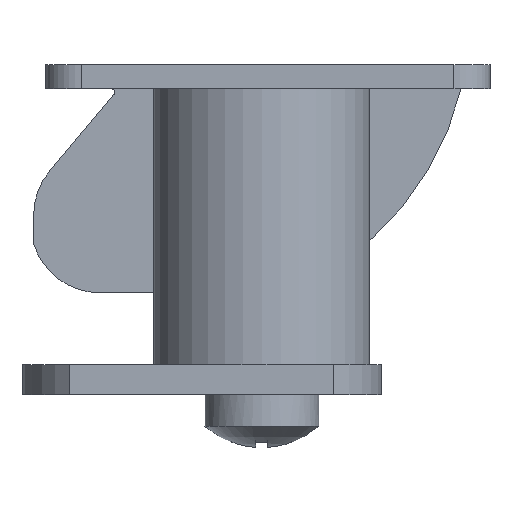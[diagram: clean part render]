
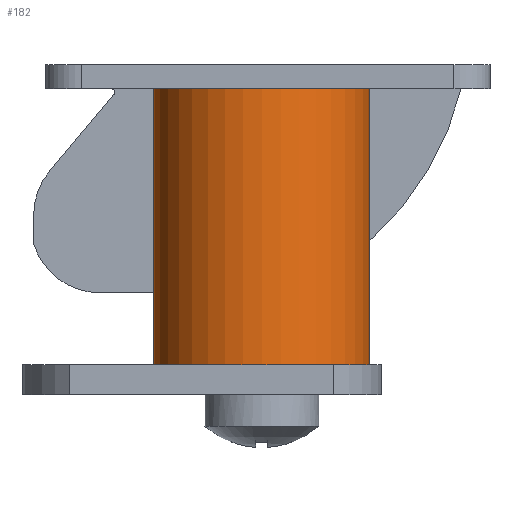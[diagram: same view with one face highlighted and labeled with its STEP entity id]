
A CAD part, left-side view. The second image highlights one B-rep face of the part: STEP entity #182.
In plain terms, the highlighted cylindrical face has radius 9 mm (diameter 18 mm), a full revolution.
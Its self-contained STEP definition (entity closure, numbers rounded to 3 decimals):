
#182 = ADVANCED_FACE( '', ( #287, #288 ), #289, .T. );
#287 = FACE_OUTER_BOUND( '', #474, .T. );
#288 = FACE_OUTER_BOUND( '', #475, .T. );
#289 = CYLINDRICAL_SURFACE( '', #476, 9. );
#474 = EDGE_LOOP( '', ( #749 ) );
#475 = EDGE_LOOP( '', ( #750 ) );
#476 = AXIS2_PLACEMENT_3D( '', #751, #752, #753 );
#749 = ORIENTED_EDGE( '', *, *, #1363, .F. );
#750 = ORIENTED_EDGE( '', *, *, #1377, .T. );
#751 = CARTESIAN_POINT( '', ( 0., 0., -25.5 ) );
#752 = DIRECTION( '', ( 0., 0., 1. ) );
#753 = DIRECTION( '', ( -1., 0., 0. ) );
#1363 = EDGE_CURVE( '', #1615, #1615, #1616, .T. );
#1377 = EDGE_CURVE( '', #1633, #1633, #1634, .F. );
#1615 = VERTEX_POINT( '', #1992 );
#1616 = CIRCLE( '', #1993, 9. );
#1633 = VERTEX_POINT( '', #2023 );
#1634 = CIRCLE( '', #2024, 9. );
#1992 = CARTESIAN_POINT( '', ( -9., 0., -23. ) );
#1993 = AXIS2_PLACEMENT_3D( '', #2476, #2477, #2478 );
#2023 = CARTESIAN_POINT( '', ( 9., 0., 0. ) );
#2024 = AXIS2_PLACEMENT_3D( '', #2492, #2493, #2494 );
#2476 = CARTESIAN_POINT( '', ( 0., 0., -23. ) );
#2477 = DIRECTION( '', ( 0., 0., -1. ) );
#2478 = DIRECTION( '', ( -1., 0., 0. ) );
#2492 = CARTESIAN_POINT( '', ( 0., 0., 0. ) );
#2493 = DIRECTION( '', ( 0., 0., 1. ) );
#2494 = DIRECTION( '', ( 1., 0., 0. ) );
